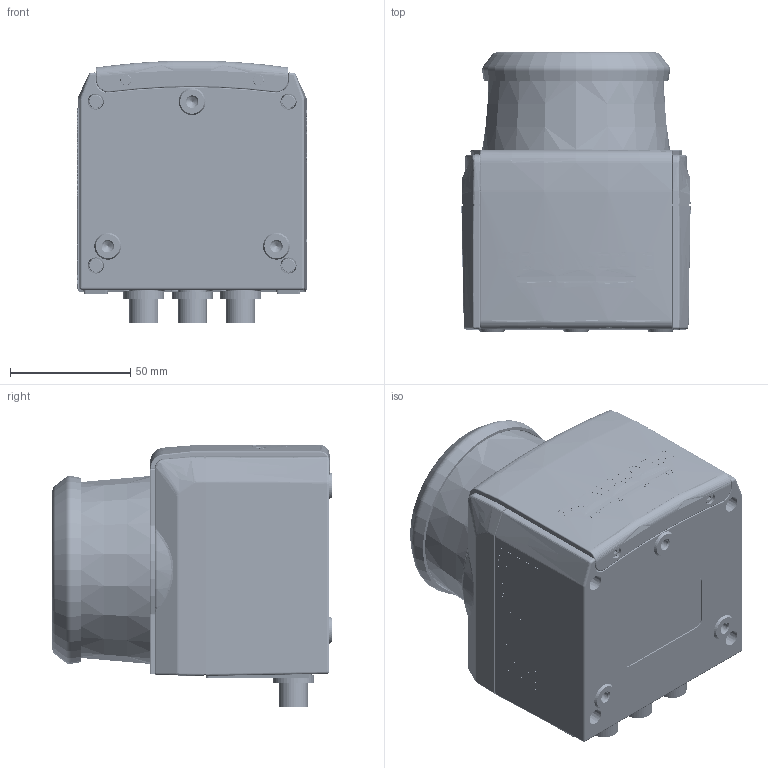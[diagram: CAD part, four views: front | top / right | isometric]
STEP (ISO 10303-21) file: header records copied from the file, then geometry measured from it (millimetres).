
FILE_DESCRIPTION (( 'STEP AP214' ), '1' );
FILE_NAME ('LR-1FM2L3-C1 翋儂-2020.STEP', '2020-07-31T01:33:19', ( 'win7' ), ( '' ), 'SwSTEP 2.0', 'SolidWorks 2018', '' );
FILE_SCHEMA (( 'AUTOMOTIVE_DESIGN' ));
Length unit declared in the file: millimetre
Products named in the file (1): LR-1FM2L3-C1 翋儂-2020
Bounding box: 95.11 x 116 x 109 mm (x, y, z)
Volume: 207365.3 mm3; surface area: 165371.7 mm2
Topology: 25 solids, 25 shells, 9412 faces, 24986 edges, 16417 vertices
Faces by surface type: plane 4166, bspline 4041, cylinder 613, cone 346, torus 223, sphere 23
Entity records: 565100 total; most frequent: CARTESIAN_POINT 255810, ORIENTED_EDGE 49832, DIRECTION 29148, EDGE_CURVE 24916, VERTEX_POINT 16417, VECTOR 14280, LINE 14280, EDGE_LOOP 10345
